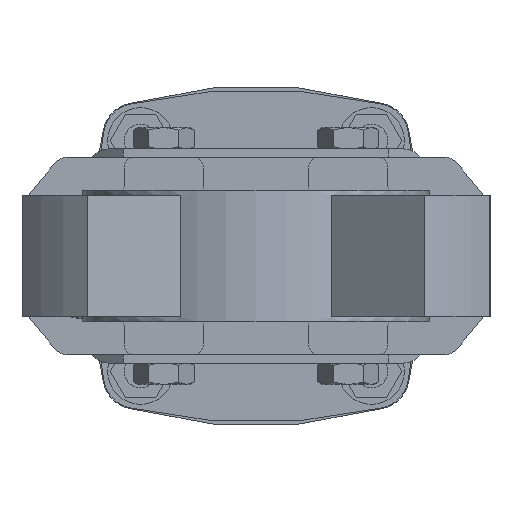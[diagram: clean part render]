
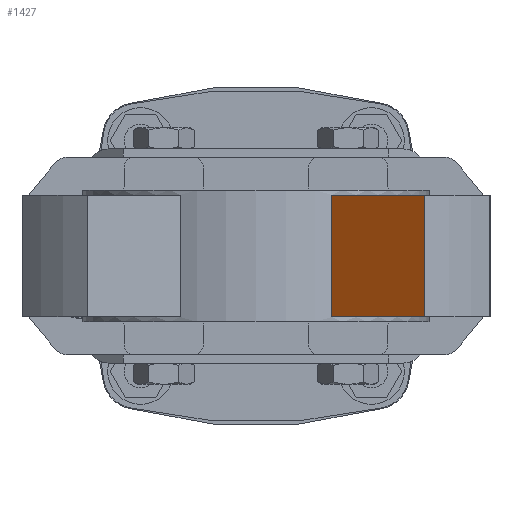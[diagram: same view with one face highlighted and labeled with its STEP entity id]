
A CAD part, front view. The second image highlights one B-rep face of the part: STEP entity #1427.
In plain terms, the highlighted planar face has unit normal (-0.643, -0.766, 0).
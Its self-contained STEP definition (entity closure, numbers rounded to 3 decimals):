
#1376 = VERTEX_POINT ( 'NONE', #6964 ) ;
#1381 = EDGE_CURVE ( 'NONE', #1376, #1446, #6957, .T. ) ;
#1427 = ADVANCED_FACE ( 'NONE', ( #7009 ), #7008, .F. ) ;
#1429 = EDGE_LOOP ( 'NONE', ( #1431, #1435, #1439, #1472 ) ) ;
#1431 = ORIENTED_EDGE ( 'NONE', *, *, #1433, .T. ) ;
#1433 = EDGE_CURVE ( 'NONE', #1655, #1446, #7059, .T. ) ;
#1435 = ORIENTED_EDGE ( 'NONE', *, *, #1381, .F. ) ;
#1439 = ORIENTED_EDGE ( 'NONE', *, *, #1440, .F. ) ;
#1440 = EDGE_CURVE ( 'NONE', #1636, #1376, #7049, .T. ) ;
#1446 = VERTEX_POINT ( 'NONE', #7034 ) ;
#1472 = ORIENTED_EDGE ( 'NONE', *, *, #1662, .T. ) ;
#1636 = VERTEX_POINT ( 'NONE', #7443 ) ;
#1655 = VERTEX_POINT ( 'NONE', #7476 ) ;
#1662 = EDGE_CURVE ( 'NONE', #1636, #1655, #26623, .T. ) ;
#6954 = DIRECTION ( 'NONE',  ( 0., 0., -1. ) ) ;
#6955 = VECTOR ( 'NONE', #6954, 1000. ) ;
#6956 = CARTESIAN_POINT ( 'NONE',  ( 51.175, -70.974, 18.5 ) ) ;
#6957 = LINE ( 'NONE', #6956, #6955 ) ;
#6964 = CARTESIAN_POINT ( 'NONE',  ( 51.175, -70.974, 18.5 ) ) ;
#7004 = DIRECTION ( 'NONE',  ( -0.766, 0.643, 0. ) ) ;
#7005 = DIRECTION ( 'NONE',  ( 0.643, 0.766, 0. ) ) ;
#7006 = CARTESIAN_POINT ( 'NONE',  ( 22.895, -47.245, 18.5 ) ) ;
#7007 = AXIS2_PLACEMENT_3D ( 'NONE', #7006, #7005, #7004 ) ;
#7008 = PLANE ( 'NONE',  #7007 ) ;
#7009 = FACE_OUTER_BOUND ( 'NONE', #1429, .T. ) ;
#7034 = CARTESIAN_POINT ( 'NONE',  ( 51.175, -70.974, -18.5 ) ) ;
#7046 = DIRECTION ( 'NONE',  ( 0.766, -0.643, 0. ) ) ;
#7047 = VECTOR ( 'NONE', #7046, 1000. ) ;
#7048 = CARTESIAN_POINT ( 'NONE',  ( 22.895, -47.245, 18.5 ) ) ;
#7049 = LINE ( 'NONE', #7048, #7047 ) ;
#7056 = DIRECTION ( 'NONE',  ( 0.766, -0.643, 0. ) ) ;
#7057 = VECTOR ( 'NONE', #7056, 1000. ) ;
#7058 = CARTESIAN_POINT ( 'NONE',  ( 22.895, -47.245, -18.5 ) ) ;
#7059 = LINE ( 'NONE', #7058, #7057 ) ;
#7443 = CARTESIAN_POINT ( 'NONE',  ( 22.895, -47.245, 18.5 ) ) ;
#7476 = CARTESIAN_POINT ( 'NONE',  ( 22.895, -47.245, -18.5 ) ) ;
#26620 = DIRECTION ( 'NONE',  ( 0., 0., -1. ) ) ;
#26621 = VECTOR ( 'NONE', #26620, 1000. ) ;
#26622 = CARTESIAN_POINT ( 'NONE',  ( 22.895, -47.245, 18.5 ) ) ;
#26623 = LINE ( 'NONE', #26622, #26621 ) ;
